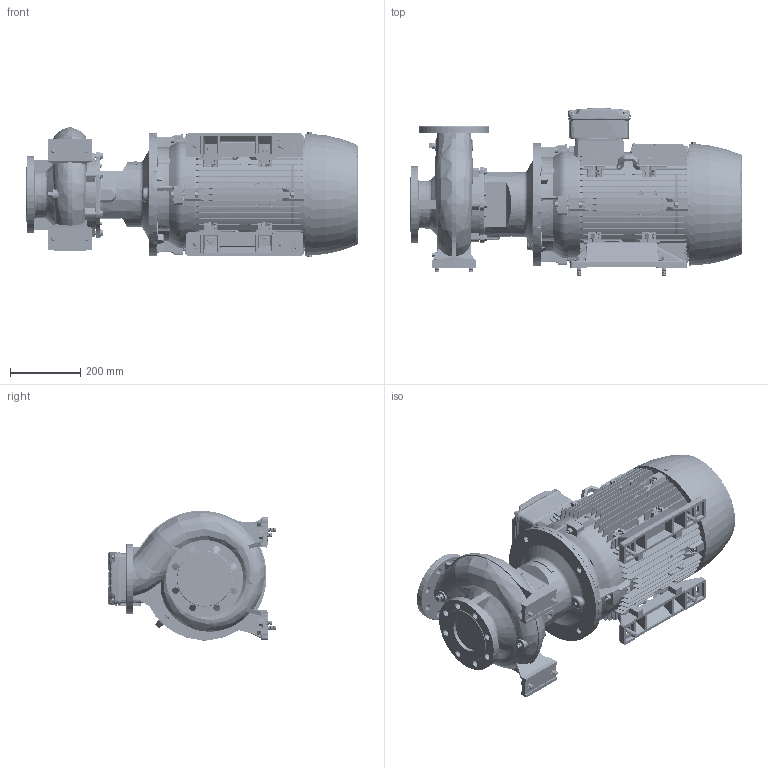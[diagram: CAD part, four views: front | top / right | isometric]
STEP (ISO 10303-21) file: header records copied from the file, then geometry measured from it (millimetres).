
FILE_DESCRIPTION (( 'STEP AP214' ), '1' );
FILE_NAME ('GSD2 80-160_22.0_(180ML)_W21.STEP', '2026-07-08T06:17:30', ( '' ), ( '' ), 'SwSTEP 2.0', 'SolidWorks 2024', '' );
FILE_SCHEMA (( 'AUTOMOTIVE_DESIGN' ));
Length unit declared in the file: millimetre
Products named in the file (8): Parametric bolt_SFT-A299B; GSD2  80-160_22.0_(180ML)_W21; Parametric Flat Washer_M12; 180M_L ALIE3_W21T_B35; Parametric bolt and washer_SFT-A305B; Parametric bolt_SFT-A305B; 80-160-180M_L_ﾃﾞﾌｫﾙﾄ; Parametric bolt and washer_SFT-A299B
Assembly tree (14 placements, depth 3):
  GSD2  80-160_22.0_(180ML)_W21
    80-160-180M_L_ﾃﾞﾌｫﾙﾄ
    Parametric bolt and washer_SFT-A299B  x4
      Parametric bolt_SFT-A299B
      Parametric Flat Washer_M12
    Parametric bolt and washer_SFT-A305B  x4
      Parametric bolt_SFT-A305B
      Parametric Flat Washer_M12
    180M_L ALIE3_W21T_B35
Bounding box: 944.8 x 477 x 371.33 mm (x, y, z)
Volume: 61628024.1 mm3; surface area: 3286226 mm2
Topology: 43 solids, 43 shells, 6195 faces, 16078 edges, 10407 vertices
Faces by surface type: plane 3749, cylinder 1125, cone 585, bspline 441, torus 279, sphere 16
Entity records: 219218 total; most frequent: CARTESIAN_POINT 82736, ORIENTED_EDGE 30120, DIRECTION 25300, EDGE_CURVE 15060, VERTEX_POINT 9756, LINE 9522, VECTOR 9522, AXIS2_PLACEMENT_3D 7889
